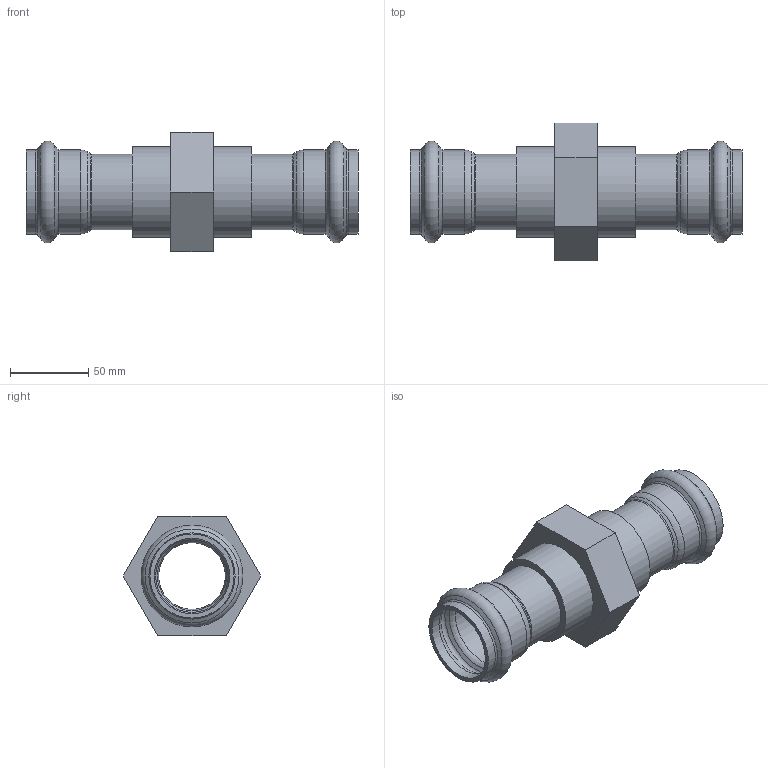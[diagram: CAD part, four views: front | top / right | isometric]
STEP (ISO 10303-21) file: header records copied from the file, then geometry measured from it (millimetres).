
FILE_DESCRIPTION(/* description */ ('VIC THREADED UNION STYLE P585 (P X P)','CAx-IF Rec.Pracs.---Representation and Presentation of Product Manufacturing Information (PMI)---4.0---2014-10-13'),/* implementation_level */ '2;1');
FILE_NAME(/* name */ 'C:\Users\kkamble\AppData\Roaming\Autodesk\ApplicationPlugins\Back Up\Victaulic_SS-Vic-Press-TP 316_Union Threaded_Style P585 (VP)\Victaulic_SS-Vic-Press-TP 316_Union Threaded_Style P585 (VP)_1.5 (40).stp',/* time_stamp */ '2020-08-14T15:52:51+05:00',/* author */ ('jheald'),/* organization */ ('Victaulic'),/* preprocessor_version */ 'ST-DEVELOPER v17.2',/* originating_system */ 'Autodesk Inventor 2019',/* authorisation */ '');
FILE_SCHEMA (('AP242_MANAGED_MODEL_BASED_3D_ENGINEERING_MIM_LF { 1 0 10303 442 1 1 4 }'));
Length unit declared in the file: inch
Products named in the file (1): P585-01.5
Bounding box: 212.34 x 87.99 x 76.2 mm (x, y, z)
Volume: 220383.6 mm3; surface area: 80132.6 mm2
Topology: 1 solids, 1 shells, 57 faces, 201 edges, 150 vertices
Faces by surface type: torus 20, cylinder 13, cone 12, plane 12
Full cylindrical faces by diameter (mm): 42.723 x1, 48.26 x6, 53.797 x4, 57.912 x2
Entity records: 2539 total; most frequent: DIRECTION 501, CARTESIAN_POINT 426, ORIENTED_EDGE 402, AXIS2_PLACEMENT_3D 229, EDGE_CURVE 201, CIRCLE 158, VERTEX_POINT 150, EDGE_LOOP 63
